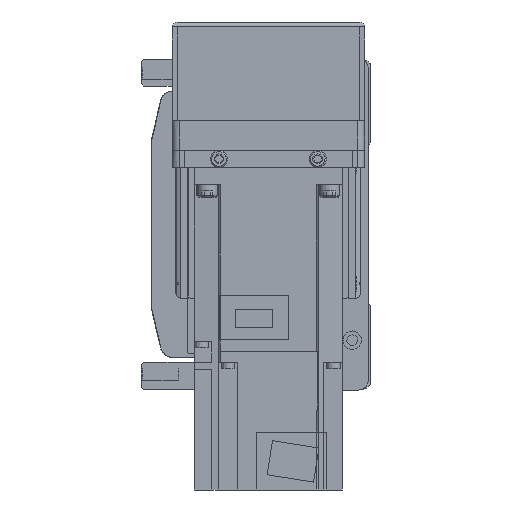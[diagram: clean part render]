
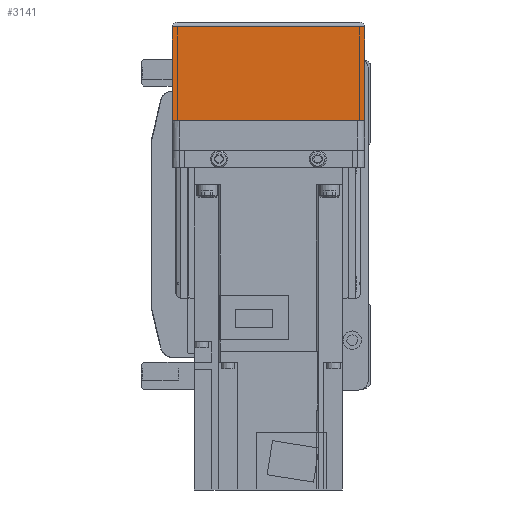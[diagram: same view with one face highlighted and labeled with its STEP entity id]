
A CAD part, left-side view. The second image highlights one B-rep face of the part: STEP entity #3141.
In plain terms, the highlighted planar face has unit normal (-1, 0, 0).
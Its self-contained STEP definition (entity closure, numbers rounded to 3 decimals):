
#3141 = ADVANCED_FACE( '', ( #6756 ), #6757, .F. );
#6756 = FACE_OUTER_BOUND( '', #10694, .T. );
#6757 = PLANE( '', #10695 );
#10694 = EDGE_LOOP( '', ( #19697, #19698, #19699, #19700 ) );
#10695 = AXIS2_PLACEMENT_3D( '', #19701, #19702, #19703 );
#19697 = ORIENTED_EDGE( '', *, *, #25366, .F. );
#19698 = ORIENTED_EDGE( '', *, *, #25367, .F. );
#19699 = ORIENTED_EDGE( '', *, *, #22736, .T. );
#19700 = ORIENTED_EDGE( '', *, *, #24049, .F. );
#19701 = CARTESIAN_POINT( '', ( -158., 36., 7. ) );
#19702 = DIRECTION( '', ( 1., 0., 0. ) );
#19703 = DIRECTION( '', ( 0., 0., -1. ) );
#22736 = EDGE_CURVE( '', #27386, #27391, #27393, .T. );
#24049 = EDGE_CURVE( '', #27718, #27391, #29483, .T. );
#25366 = EDGE_CURVE( '', #30995, #27718, #31210, .T. );
#25367 = EDGE_CURVE( '', #27386, #30995, #31211, .T. );
#27386 = VERTEX_POINT( '', #34467 );
#27391 = VERTEX_POINT( '', #34473 );
#27393 = LINE( '', #34475, #34476 );
#27718 = VERTEX_POINT( '', #34929 );
#29483 = LINE( '', #37698, #37699 );
#30995 = VERTEX_POINT( '', #40270 );
#31210 = LINE( '', #40545, #40546 );
#31211 = LINE( '', #40547, #40548 );
#34467 = CARTESIAN_POINT( '', ( -158., 39., -50. ) );
#34473 = CARTESIAN_POINT( '', ( -158., -39., -50. ) );
#34475 = CARTESIAN_POINT( '', ( -158., 40., -50. ) );
#34476 = VECTOR( '', #42353, 1000. );
#34929 = CARTESIAN_POINT( '', ( -158., -39., -12.1 ) );
#37698 = CARTESIAN_POINT( '', ( -158., -39., -12.1 ) );
#37699 = VECTOR( '', #44005, 1000. );
#40270 = CARTESIAN_POINT( '', ( -158., 39., -12.1 ) );
#40545 = CARTESIAN_POINT( '', ( -158., 50., -12.1 ) );
#40546 = VECTOR( '', #45370, 1000. );
#40547 = CARTESIAN_POINT( '', ( -158., 39., -50. ) );
#40548 = VECTOR( '', #45371, 1000. );
#42353 = DIRECTION( '', ( 0., -1., 0. ) );
#44005 = DIRECTION( '', ( 0., 0., -1. ) );
#45370 = DIRECTION( '', ( 0., -1., 0. ) );
#45371 = DIRECTION( '', ( 0., 0., 1. ) );
